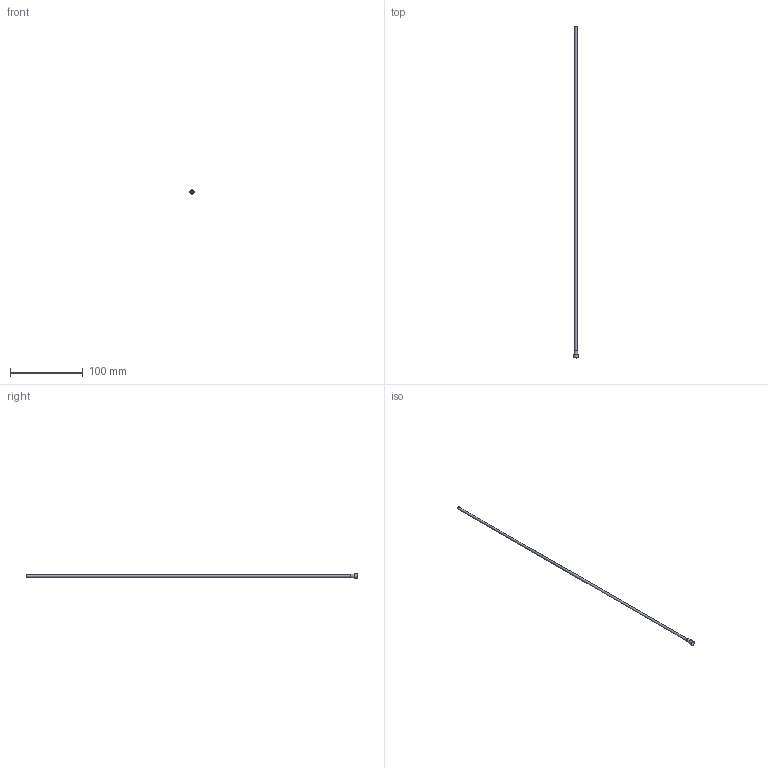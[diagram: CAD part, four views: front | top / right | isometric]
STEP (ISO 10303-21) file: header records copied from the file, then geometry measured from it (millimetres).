
FILE_DESCRIPTION(/* description */ (''),/* implementation_level */ '2;1');
FILE_NAME(/* name */ 'C:/Users/drich/Desktop/R125T-18 v1.step',/* time_stamp */ '2019-12-30T13:13:14-06:00',/* author */ (''),/* organization */ (''),/* preprocessor_version */ 'ST-DEVELOPER v18',/* originating_system */ 'Autodesk Translation Framework v8.12.0.6',/* authorisation */ '');
FILE_SCHEMA (('AUTOMOTIVE_DESIGN { 1 0 10303 214 3 1 1 }'));
Length unit declared in the file: inch
Products named in the file (1): R125T-18
Bounding box: 6.21 x 457.2 x 6.21 mm (x, y, z)
Volume: 991.9 mm3; surface area: 8595.4 mm2
Topology: 1 solids, 1 shells, 19 faces, 47 edges, 33 vertices
Faces by surface type: plane 11, cylinder 4, torus 3, cone 1
Full cylindrical faces by diameter (mm): 2.743 x1, 3.15 x1, 4.727 x1, 6.213 x1
Entity records: 624 total; most frequent: DIRECTION 111, CARTESIAN_POINT 100, ORIENTED_EDGE 94, EDGE_CURVE 47, AXIS2_PLACEMENT_3D 44, VERTEX_POINT 33, EDGE_LOOP 24, CIRCLE 24
